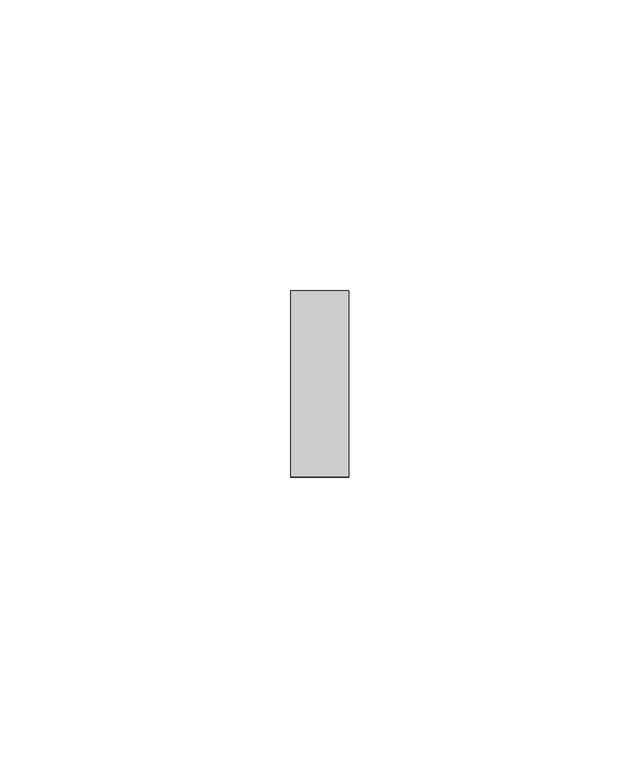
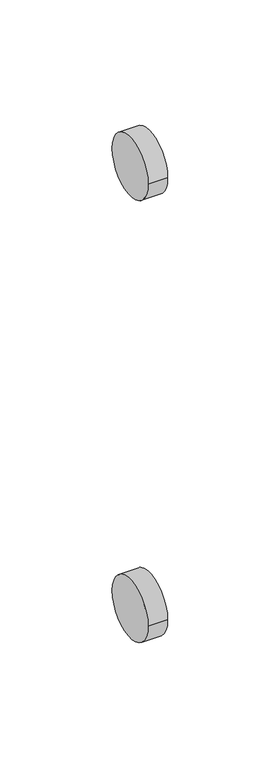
"""IFC4 building model written with IfcOpenShell, lengths in millimetres: proxy geometry, joiner_1 : 312973_Гибкая вставка_6."""

from ifc_helpers import new_model, si_unit, point, frame, frame_2d, origin, origin_2d, place, context, project, spatial, circle_curve, trimmed, segment, composite_curve, outline, extrude, source, transform, mapped, element, save


def mechanical_equipment_78119eb5(model_context):
    return source(origin(), model_context, "Body", "SweptSolid", [
        extrude(outline(composite_curve([segment(trimmed(circle_curve(frame_2d((0.0, -240.0)), 16.0), [point((-16.0, -240.0))], [point((16.0, -240.0))], False, "CARTESIAN"), True, "CONTINUOUS"), segment(trimmed(circle_curve(frame_2d((0.0, -240.0)), 16.0), [point((16.0, -240.0))], [point((-16.0, -240.0))], False, "CARTESIAN"), True, "CONTINUOUS")], self_intersect=False)), frame((0.0, 0.0, 0.0), z_axis=(1.0, 0.0, 0.0), x_axis=(0.0, 1.0, 0.0)), (0.0, 0.0, 1.0), 10.0),
        extrude(outline(composite_curve([segment(trimmed(circle_curve(origin_2d(), 16.0), [point((-16.0, 0.0))], [point((16.0, 0.0))], False, "CARTESIAN"), True, "CONTINUOUS"), segment(trimmed(circle_curve(origin_2d(), 16.0), [point((16.0, 0.0))], [point((-16.0, 0.0))], False, "CARTESIAN"), True, "CONTINUOUS")], self_intersect=False)), frame((0.0, 0.0, 0.0), z_axis=(1.0, 0.0, 0.0), x_axis=(0.0, 1.0, 0.0)), (0.0, 0.0, 1.0), 10.0),
    ])


if __name__ == "__main__":
    model = new_model("IFC4")
    model_context = context("Model", 3, world=origin())
    ifc_project = project(units=[si_unit("LENGTHUNIT", "METRE", prefix="MILLI")], contexts=[model_context])
    site = spatial("IfcSite", under=ifc_project)
    building = spatial("IfcBuilding", under=site)
    placement = place(None, origin())
    mechanical_equipment_shape = mechanical_equipment_78119eb5(model_context)
    element("IfcBuildingElementProxy", 1, Name="joiner_1 : 312973_Гибкая вставка_6", ObjectType="joiner_1 : 312973_Гибкая вставка_6", at=placement, inside=building, context=model_context, shape_type="MappedRepresentation", body=[
        mapped(mechanical_equipment_shape, transform((0.0, 0.0, 0.0), x_axis=(1.0, 0.0, 0.0), y_axis=(0.0, 1.0, 0.0), z_axis=(0.0, 0.0, 1.0))),
    ])
    save(model, "model.ifc")
